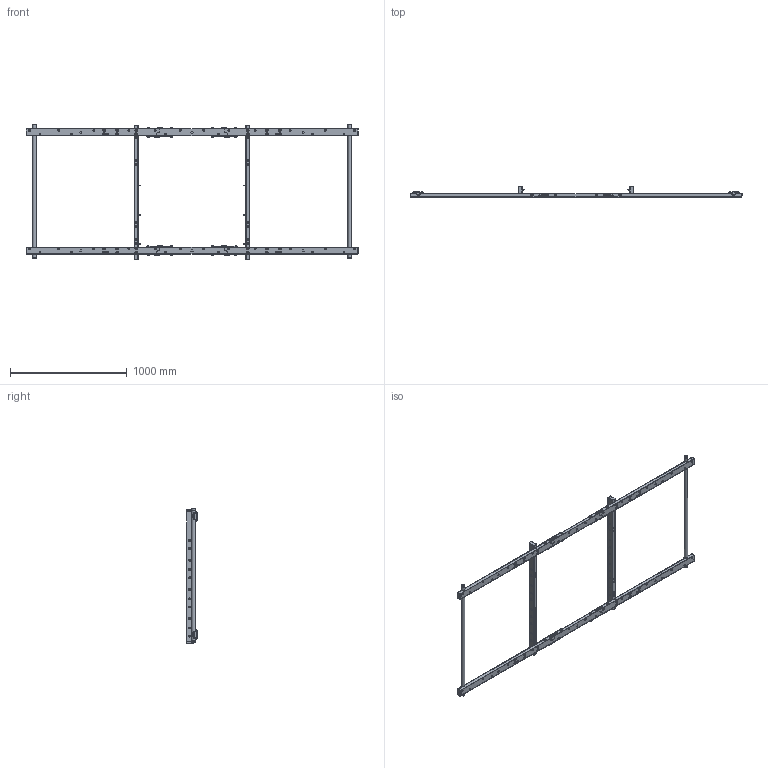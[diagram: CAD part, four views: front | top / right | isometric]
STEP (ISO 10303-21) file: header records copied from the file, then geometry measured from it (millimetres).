
FILE_DESCRIPTION(/* description */ ('PLANAR ASSY 136in'),/* implementation_level */ '2;1');
FILE_NAME(/* name */ 'PLANAR ASSY 136 IN.stp',/* time_stamp */ '2025-03-18T11:46:15+01:00',/* author */ ('p.weusten'),/* organization */ (''),/* preprocessor_version */ 'ST-DEVELOPER v20',/* originating_system */ 'Autodesk Inventor 2024',/* authorisation */ '');
FILE_SCHEMA (('AUTOMOTIVE_DESIGN { 1 0 10303 214 3 1 1 }'));
Length unit declared in the file: millimetre
Products named in the file (20): E000137021; 988D06; 945B92; 988D05; 945B93; 988D04; 945B91; 988D02; 945B95; 988D03; 945B90; 937039; 913819; 945B96; 988D07; 945B97; 937038; 945B98; 914B02; 914B03
Assembly tree (148 placements, depth 3):
  E000137021
    988D06
      945B92
      913819  x11
      937039  x2
    988D05
      945B93
      913819  x11
      937039  x2
    988D04  x2
      945B91
      913819
      937039
    988D02  x2
      945B95
      913819
    988D03  x2
      945B90
      913819
      937039
    945B96  x4
    988D07  x2
      945B97
      937038
    945B98  x4
    914B02  x48
    914B03  x6
Bounding box: 2840 x 93.2 x 1160.45 mm (x, y, z)
Volume: 5002403.7 mm3; surface area: 3546079.5 mm2
Topology: 186 solids, 186 shells, 5260 faces, 12954 edges, 8332 vertices
Faces by surface type: plane 3964, cylinder 942, cone 264, torus 90
Full cylindrical faces by diameter (mm): 6 x14, 6.048 x102, 7 x22, 8 x48, 10.65 x8, 10.947 x102, 15.375 x102, 16 x22, 17.445 x4, 22.445 x4, 26 x2, 30 x6
Entity records: 31906 total; most frequent: CARTESIAN_POINT 5506, DIRECTION 5259, ORIENTED_EDGE 5192, EDGE_CURVE 2596, LINE 2021, VECTOR 2021, VERTEX_POINT 1714, AXIS2_PLACEMENT_3D 1619
